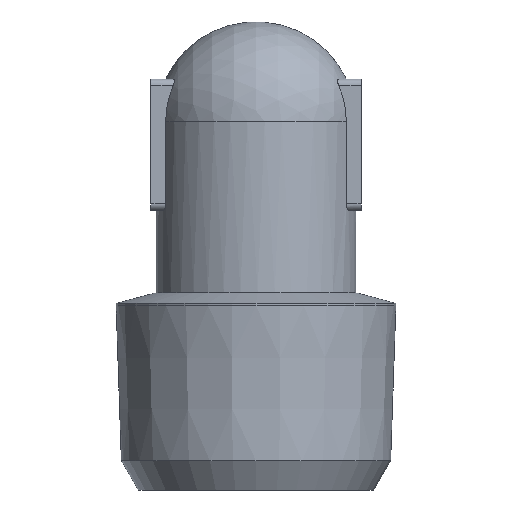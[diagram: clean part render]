
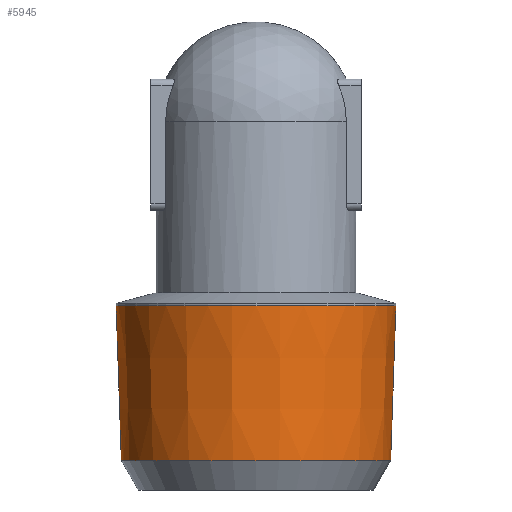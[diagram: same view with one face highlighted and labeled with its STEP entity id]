
A CAD part, left-side view. The second image highlights one B-rep face of the part: STEP entity #5945.
In plain terms, the highlighted conical face has half-angle 1.918 degrees and reference radius 10.634 mm.
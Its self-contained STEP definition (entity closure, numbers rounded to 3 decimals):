
#1938=ORIENTED_EDGE('',*,*,#2370,.F.);
#1939=ORIENTED_EDGE('',*,*,#2371,.F.);
#2161=CIRCLE('',#5808,10.239);
#2162=CIRCLE('',#5810,10.634);
#2240=VERTEX_POINT('',#3727);
#2241=VERTEX_POINT('',#3730);
#2370=EDGE_CURVE('',#2240,#2240,#2161,.T.);
#2371=EDGE_CURVE('',#2241,#2241,#2162,.T.);
#2520=EDGE_LOOP('',(#1938));
#2521=EDGE_LOOP('',(#1939));
#2630=FACE_BOUND('',#2520,.T.);
#2631=FACE_BOUND('',#2521,.T.);
#2859=DIRECTION('',(0.,-1.,0.));
#2860=DIRECTION('',(0.,0.,10.239));
#2861=DIRECTION('',(0.,1.,0.));
#2862=DIRECTION('',(0.,0.,1.));
#2863=DIRECTION('',(0.,1.,0.));
#2864=DIRECTION('',(0.,0.,10.634));
#3727=CARTESIAN_POINT('',(14.935,14.064,10.239));
#3728=CARTESIAN_POINT('',(14.935,14.064,0.));
#3729=CARTESIAN_POINT('',(14.935,25.855,0.));
#3730=CARTESIAN_POINT('',(14.935,25.855,10.634));
#3731=CARTESIAN_POINT('',(14.935,25.855,0.));
#5808=AXIS2_PLACEMENT_3D('',#3728,#2859,#2860);
#5809=AXIS2_PLACEMENT_3D('',#3729,#2861,#2862);
#5810=AXIS2_PLACEMENT_3D('',#3731,#2863,#2864);
#5905=CONICAL_SURFACE('',#5809,10.634,1.918);
#5945=ADVANCED_FACE('',(#2630,#2631),#5905,.T.);
